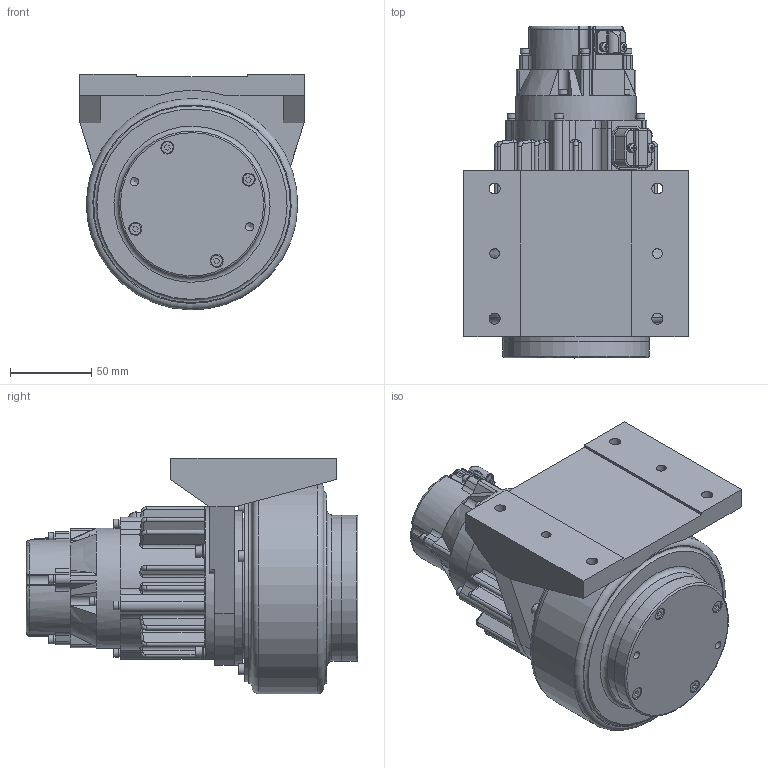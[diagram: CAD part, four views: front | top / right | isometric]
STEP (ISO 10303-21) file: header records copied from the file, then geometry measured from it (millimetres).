
FILE_DESCRIPTION(('STEP AP203'),'1');
FILE_NAME('010B.stp','2021-04-08T04:16:58',(' '),(' '),'Spatial InterOp 3D',' ',' ');
FILE_SCHEMA(('CONFIG_CONTROL_DESIGN'));
Length unit declared in the file: millimetre
Products named in the file (1): AWRⅡ010B
Bounding box: 138 x 204 x 144.98 mm (x, y, z)
Volume: 1681000.9 mm3; surface area: 153395.3 mm2
Topology: 1 solids, 23 shells, 1113 faces, 2704 edges, 1699 vertices
Faces by surface type: plane 552, cylinder 360, torus 98, bspline 56, cone 37, sphere 10
Full cylindrical faces by diameter (mm): 2.5 x16, 3 x16, 3.3 x4, 3.5 x12, 4 x4, 4.3 x4, 4.5 x4, 5 x2, 5.5 x12, 5.6 x4, 6 x7, 6.75 x4, 7 x13, 8 x5, 9 x6, 74 x1, 84 x1, 86 x1, 90 x2, 95 x1, 96 x1, 115 x1, 130 x1
Entity records: 41937 total; most frequent: CARTESIAN_POINT 16560, DIRECTION 5509, ORIENTED_EDGE 4896, EDGE_CURVE 2448, AXIS2_PLACEMENT_3D 2187, VERTEX_POINT 1638, EDGE_LOOP 1402, FACE_OUTER_BOUND 1245
